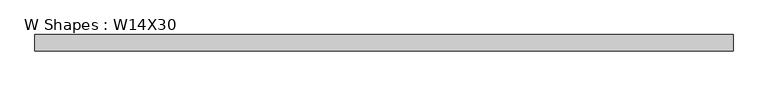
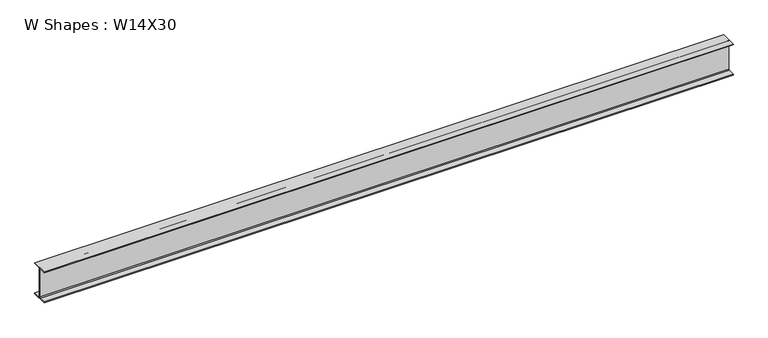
"""IFC4 building model written with IfcOpenShell, lengths in millimetres: beam geometry, W Shapes : W14X30."""

from ifc_helpers import new_model, si_unit, point, frame, frame_2d, origin, place, context, project, spatial, polyline, circle_curve, trimmed, segment, composite_curve, outline, extrude, source, transform, mapped, element, save


def w_shapes_w14x30_2b5df836(model_context):
    return source(origin(), model_context, "Body", "SweptSolid", [
        extrude(outline(composite_curve([segment(polyline([(85.471, -165.481), (85.471, -175.26), (-85.471, -175.26), (-85.471, -165.481), (-13.589, -165.481)]), True, "CONTINUOUS"), segment(trimmed(circle_curve(frame_2d((-13.589, -155.321)), 10.16), [point((-13.589, -165.481))], [point((-3.429, -155.321))], True, "CARTESIAN"), True, "CONTINUOUS"), segment(polyline([(-3.429, -155.321), (-3.429, 155.321)]), True, "CONTINUOUS"), segment(trimmed(circle_curve(frame_2d((-13.589, 155.321)), 10.16), [point((-3.429, 155.321))], [point((-13.589, 165.481))], True, "CARTESIAN"), True, "CONTINUOUS"), segment(polyline([(-13.589, 165.481), (-85.471, 165.481), (-85.471, 175.26), (85.471, 175.26), (85.471, 165.481), (13.589, 165.481)]), True, "CONTINUOUS"), segment(trimmed(circle_curve(frame_2d((13.589, 155.321)), 10.16), [point((13.589, 165.481))], [point((3.429, 155.321))], True, "CARTESIAN"), True, "CONTINUOUS"), segment(polyline([(3.429, 155.321), (3.429, -155.321)]), True, "CONTINUOUS"), segment(trimmed(circle_curve(frame_2d((13.589, -155.321)), 10.16), [point((3.429, -155.321))], [point((13.589, -165.481))], True, "CARTESIAN"), True, "CONTINUOUS"), segment(polyline([(13.589, -165.481), (85.471, -165.481)]), True, "CONTINUOUS")], self_intersect=False)), frame((-3670.3, 0.0, 0.0), z_axis=(1.0, 0.0, 0.0), x_axis=(0.0, 1.0, 0.0)), (0.0, 0.0, 1.0), 7340.6),
    ])


if __name__ == "__main__":
    model = new_model("IFC4")
    model_context = context("Model", 3, world=origin())
    ifc_project = project(units=[si_unit("LENGTHUNIT", "METRE", prefix="MILLI")], contexts=[model_context])
    site = spatial("IfcSite", under=ifc_project)
    building = spatial("IfcBuilding", under=site)
    placement = place(None, origin())
    w_shapes_w14x30_shape = w_shapes_w14x30_2b5df836(model_context)
    element("IfcBeam", 1, ObjectType="W Shapes : W14X30", at=placement, inside=building, context=model_context, shape_type="MappedRepresentation", body=[
        mapped(w_shapes_w14x30_shape, transform((0.0, 0.0, 0.0), x_axis=(1.0, 0.0, 0.0), y_axis=(0.0, 1.0, 0.0), z_axis=(0.0, 0.0, 1.0))),
    ])
    save(model, "model.ifc")
